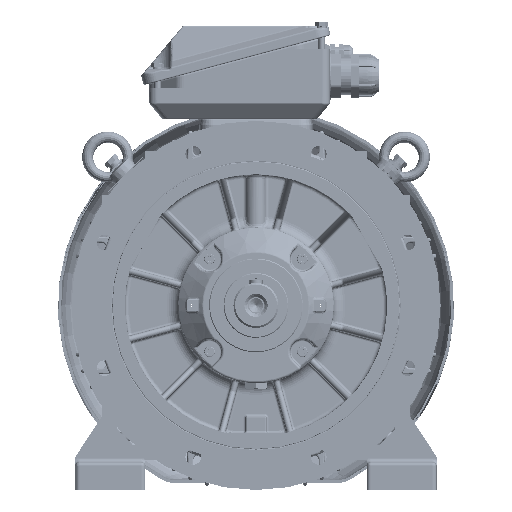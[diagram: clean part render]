
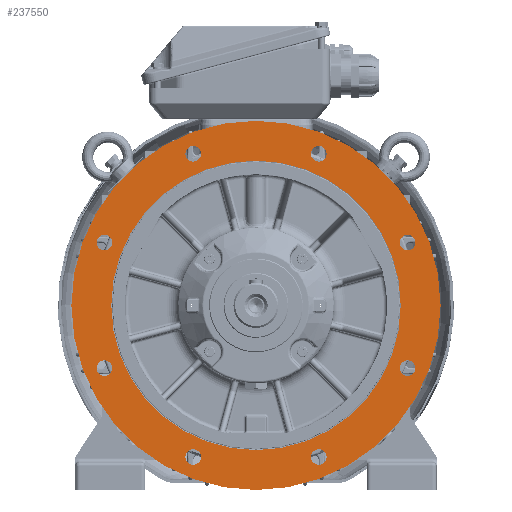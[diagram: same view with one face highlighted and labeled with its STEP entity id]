
A CAD part, front view. The second image highlights one B-rep face of the part: STEP entity #237550.
In plain terms, the highlighted planar face has unit normal (0, -1, 0).
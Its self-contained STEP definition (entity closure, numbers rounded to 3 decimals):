
#39382=PLANE('',#250368);
#75446=ORIENTED_EDGE('',*,*,#109178,.F.);
#75447=ORIENTED_EDGE('',*,*,#109179,.F.);
#75448=ORIENTED_EDGE('',*,*,#109180,.F.);
#75449=ORIENTED_EDGE('',*,*,#109181,.F.);
#75450=ORIENTED_EDGE('',*,*,#109182,.F.);
#75451=ORIENTED_EDGE('',*,*,#109183,.F.);
#75452=ORIENTED_EDGE('',*,*,#109184,.F.);
#75453=ORIENTED_EDGE('',*,*,#109185,.F.);
#75454=ORIENTED_EDGE('',*,*,#107748,.F.);
#75455=ORIENTED_EDGE('',*,*,#109176,.F.);
#107748=EDGE_CURVE('',#145686,#145686,#119703,.T.);
#109176=EDGE_CURVE('',#146621,#146621,#120180,.T.);
#109178=EDGE_CURVE('',#146623,#146623,#120182,.T.);
#109179=EDGE_CURVE('',#146624,#146624,#120183,.T.);
#109180=EDGE_CURVE('',#146625,#146625,#120184,.T.);
#109181=EDGE_CURVE('',#146626,#146626,#120185,.T.);
#109182=EDGE_CURVE('',#146627,#146627,#120186,.T.);
#109183=EDGE_CURVE('',#146628,#146628,#120187,.T.);
#109184=EDGE_CURVE('',#146629,#146629,#120188,.T.);
#109185=EDGE_CURVE('',#146630,#146630,#120189,.T.);
#119703=CIRCLE('',#249435,176.395);
#120180=CIRCLE('',#250366,224.995);
#120182=CIRCLE('',#250369,9.5);
#120183=CIRCLE('',#250370,9.5);
#120184=CIRCLE('',#250371,9.5);
#120185=CIRCLE('',#250372,9.5);
#120186=CIRCLE('',#250373,9.5);
#120187=CIRCLE('',#250374,9.5);
#120188=CIRCLE('',#250375,9.5);
#120189=CIRCLE('',#250376,9.5);
#131721=EDGE_LOOP('',(#75446));
#131722=EDGE_LOOP('',(#75447));
#131723=EDGE_LOOP('',(#75448));
#131724=EDGE_LOOP('',(#75449));
#131725=EDGE_LOOP('',(#75450));
#131726=EDGE_LOOP('',(#75451));
#131727=EDGE_LOOP('',(#75452));
#131728=EDGE_LOOP('',(#75453));
#131729=EDGE_LOOP('',(#75454));
#131730=EDGE_LOOP('',(#75455));
#145686=VERTEX_POINT('',#349609);
#146621=VERTEX_POINT('',#358174);
#146623=VERTEX_POINT('',#358179);
#146624=VERTEX_POINT('',#358181);
#146625=VERTEX_POINT('',#358183);
#146626=VERTEX_POINT('',#358185);
#146627=VERTEX_POINT('',#358187);
#146628=VERTEX_POINT('',#358189);
#146629=VERTEX_POINT('',#358191);
#146630=VERTEX_POINT('',#358193);
#159521=FACE_BOUND('',#131721,.T.);
#159522=FACE_BOUND('',#131722,.T.);
#159523=FACE_BOUND('',#131723,.T.);
#159524=FACE_BOUND('',#131724,.T.);
#159525=FACE_BOUND('',#131725,.T.);
#159526=FACE_BOUND('',#131726,.T.);
#159527=FACE_BOUND('',#131727,.T.);
#159528=FACE_BOUND('',#131728,.T.);
#159529=FACE_BOUND('',#131729,.T.);
#159530=FACE_BOUND('',#131730,.T.);
#237550=ADVANCED_FACE('',(#159521,#159522,#159523,#159524,#159525,#159526,
#159527,#159528,#159529,#159530),#39382,.F.);
#249435=AXIS2_PLACEMENT_3D('',#349608,#285239,#285240);
#250366=AXIS2_PLACEMENT_3D('',#358173,#287572,#287573);
#250368=AXIS2_PLACEMENT_3D('',#358177,#287576,#287577);
#250369=AXIS2_PLACEMENT_3D('',#358178,#287578,#287579);
#250370=AXIS2_PLACEMENT_3D('',#358180,#287580,#287581);
#250371=AXIS2_PLACEMENT_3D('',#358182,#287582,#287583);
#250372=AXIS2_PLACEMENT_3D('',#358184,#287584,#287585);
#250373=AXIS2_PLACEMENT_3D('',#358186,#287586,#287587);
#250374=AXIS2_PLACEMENT_3D('',#358188,#287588,#287589);
#250375=AXIS2_PLACEMENT_3D('',#358190,#287590,#287591);
#250376=AXIS2_PLACEMENT_3D('',#358192,#287592,#287593);
#285239=DIRECTION('',(0.,-1.,0.));
#285240=DIRECTION('',(1.,0.,0.));
#287572=DIRECTION('',(0.,1.,0.));
#287573=DIRECTION('',(-1.,0.,0.));
#287576=DIRECTION('',(0.,1.,0.));
#287577=DIRECTION('',(-1.,0.,0.));
#287578=DIRECTION('',(0.,-1.,0.));
#287579=DIRECTION('',(1.,0.,0.));
#287580=DIRECTION('',(0.,-1.,0.));
#287581=DIRECTION('',(1.,0.,0.));
#287582=DIRECTION('',(0.,-1.,0.));
#287583=DIRECTION('',(1.,0.,0.));
#287584=DIRECTION('',(0.,-1.,0.));
#287585=DIRECTION('',(1.,0.,0.));
#287586=DIRECTION('',(0.,-1.,0.));
#287587=DIRECTION('',(1.,0.,0.));
#287588=DIRECTION('',(0.,-1.,0.));
#287589=DIRECTION('',(1.,0.,0.));
#287590=DIRECTION('',(0.,-1.,0.));
#287591=DIRECTION('',(1.,0.,0.));
#287592=DIRECTION('',(0.,-1.,0.));
#287593=DIRECTION('',(1.,0.,0.));
#349608=CARTESIAN_POINT('',(0.,-84.5,0.));
#349609=CARTESIAN_POINT('',(176.395,-84.5,0.));
#358173=CARTESIAN_POINT('',(0.,-84.5,0.));
#358174=CARTESIAN_POINT('',(-224.995,-84.5,0.));
#358177=CARTESIAN_POINT('',(-176.395,-84.5,0.));
#358178=CARTESIAN_POINT('',(184.776,-84.5,-76.537));
#358179=CARTESIAN_POINT('',(194.276,-84.5,-76.537));
#358180=CARTESIAN_POINT('',(76.537,-84.5,-184.776));
#358181=CARTESIAN_POINT('',(86.037,-84.5,-184.776));
#358182=CARTESIAN_POINT('',(-76.537,-84.5,-184.776));
#358183=CARTESIAN_POINT('',(-67.037,-84.5,-184.776));
#358184=CARTESIAN_POINT('',(-184.776,-84.5,-76.537));
#358185=CARTESIAN_POINT('',(-175.276,-84.5,-76.537));
#358186=CARTESIAN_POINT('',(-184.776,-84.5,76.537));
#358187=CARTESIAN_POINT('',(-175.276,-84.5,76.537));
#358188=CARTESIAN_POINT('',(-76.537,-84.5,184.776));
#358189=CARTESIAN_POINT('',(-67.037,-84.5,184.776));
#358190=CARTESIAN_POINT('',(76.537,-84.5,184.776));
#358191=CARTESIAN_POINT('',(86.037,-84.5,184.776));
#358192=CARTESIAN_POINT('',(184.776,-84.5,76.537));
#358193=CARTESIAN_POINT('',(194.276,-84.5,76.537));
